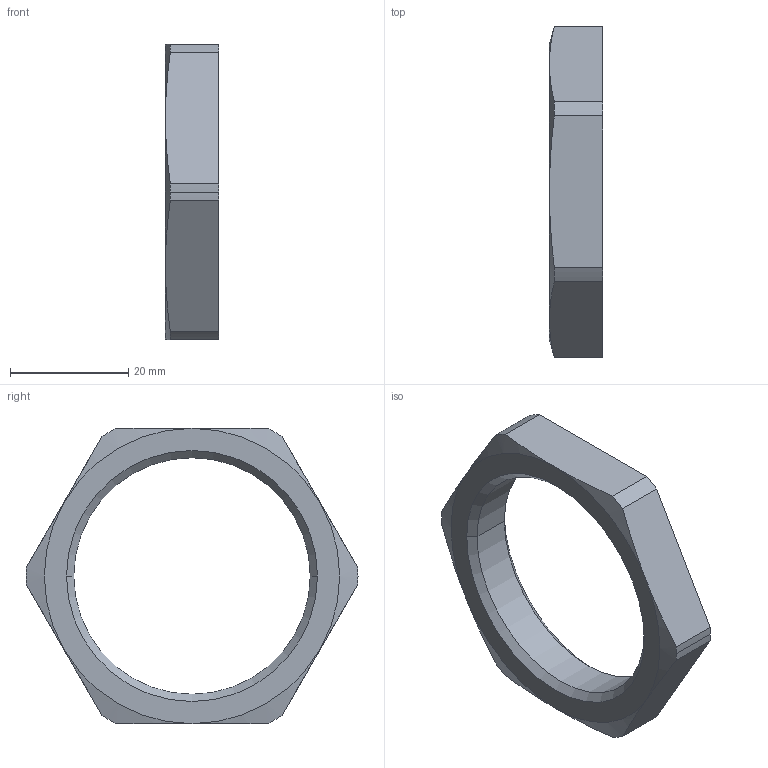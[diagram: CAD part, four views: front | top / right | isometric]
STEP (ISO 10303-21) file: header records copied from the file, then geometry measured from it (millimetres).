
FILE_DESCRIPTION((''),'2;1');
FILE_NAME('108714.0.stp','2007-11-06T08:52:04',(''),(''),'AutoCAD STEP 2000i','AutoCAD 2000i',', , ');
FILE_SCHEMA(('CONFIG_CONTROL_DESIGN'));
Length unit declared in the file: millimetre
Products named in the file (2): 108714.0; CHIAVE SMUSSX1036#0
Assembly tree (1 placements, depth 2):
  108714.0
    CHIAVE SMUSSX1036#0
Bounding box: 9 x 56.2 x 50 mm (x, y, z)
Volume: 7845 mm3; surface area: 4239.1 mm2
Topology: 1 solids, 1 shells, 28 faces, 68 edges, 42 vertices
Faces by surface type: cylinder 10, cone 10, plane 8
Entity records: 923 total; most frequent: CARTESIAN_POINT 164, DIRECTION 146, ORIENTED_EDGE 136, EDGE_CURVE 68, AXIS2_PLACEMENT_3D 60, VERTEX_POINT 42, CIRCLE 30, EDGE_LOOP 30
